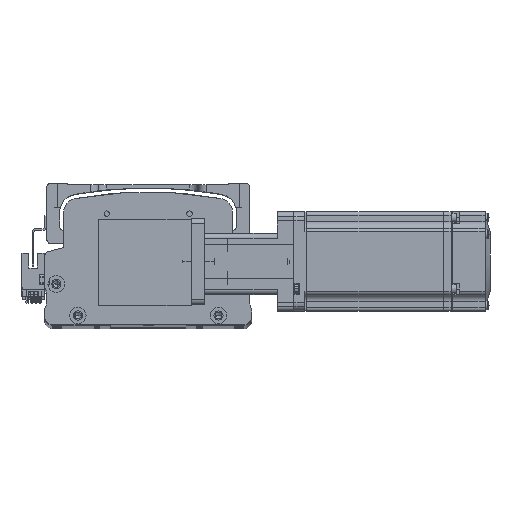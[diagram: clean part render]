
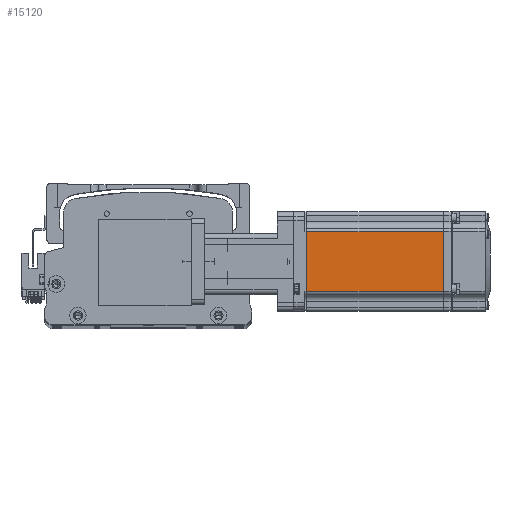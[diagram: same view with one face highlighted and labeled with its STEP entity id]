
A CAD part, top view. The second image highlights one B-rep face of the part: STEP entity #15120.
In plain terms, the highlighted planar face has unit normal (0, 0, 1) as drawn and (0, -1, 0) by its records, which use the part's own axes.
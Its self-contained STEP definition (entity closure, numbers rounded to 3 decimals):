
#254 = DIRECTION ( 'NONE',  ( 0., 0., -1. ) ) ;
#755 = EDGE_CURVE ( 'NONE', #61652, #49777, #21431, .T. ) ;
#1478 = CARTESIAN_POINT ( 'NONE',  ( -7.75, -30., 18. ) ) ;
#2008 = ORIENTED_EDGE ( 'NONE', *, *, #4641, .F. ) ;
#4641 = EDGE_CURVE ( 'NONE', #56805, #61652, #28332, .T. ) ;
#4927 = PLANE ( 'NONE',  #53076 ) ;
#5736 = VECTOR ( 'NONE', #22563, 1000. ) ;
#6845 = ORIENTED_EDGE ( 'NONE', *, *, #20313, .T. ) ;
#9947 = VERTEX_POINT ( 'NONE', #42802 ) ;
#15120 = ADVANCED_FACE ( 'NONE', ( #36832 ), #4927, .T. ) ;
#17918 = DIRECTION ( 'NONE',  ( -1., 0., 0. ) ) ;
#19633 = ORIENTED_EDGE ( 'NONE', *, *, #48475, .T. ) ;
#20313 = EDGE_CURVE ( 'NONE', #9947, #49777, #43016, .T. ) ;
#21431 = LINE ( 'NONE', #51968, #45764 ) ;
#22563 = DIRECTION ( 'NONE',  ( 0., 0., -1. ) ) ;
#26067 = CARTESIAN_POINT ( 'NONE',  ( -7.75, -30., 0. ) ) ;
#28164 = CARTESIAN_POINT ( 'NONE',  ( -90.45, -30., -18. ) ) ;
#28332 = LINE ( 'NONE', #26067, #54169 ) ;
#28632 = EDGE_LOOP ( 'NONE', ( #2008, #19633, #6845, #55835 ) ) ;
#29373 = DIRECTION ( 'NONE',  ( 0., -1., 0. ) ) ;
#30458 = DIRECTION ( 'NONE',  ( -1., 0., 0. ) ) ;
#35365 = CARTESIAN_POINT ( 'NONE',  ( -7.75, -30., -18. ) ) ;
#36832 = FACE_OUTER_BOUND ( 'NONE', #28632, .T. ) ;
#40111 = VECTOR ( 'NONE', #30458, 1000. ) ;
#42802 = CARTESIAN_POINT ( 'NONE',  ( -90.45, -30., 18. ) ) ;
#43016 = LINE ( 'NONE', #51923, #5736 ) ;
#45764 = VECTOR ( 'NONE', #17918, 1000. ) ;
#48475 = EDGE_CURVE ( 'NONE', #56805, #9947, #52964, .T. ) ;
#49777 = VERTEX_POINT ( 'NONE', #28164 ) ;
#51923 = CARTESIAN_POINT ( 'NONE',  ( -90.45, -30., 0. ) ) ;
#51968 = CARTESIAN_POINT ( 'NONE',  ( -6.5, -30., -18. ) ) ;
#52964 = LINE ( 'NONE', #54683, #40111 ) ;
#53076 = AXIS2_PLACEMENT_3D ( 'NONE', #58476, #29373, #254 ) ;
#54169 = VECTOR ( 'NONE', #60022, 1000. ) ;
#54683 = CARTESIAN_POINT ( 'NONE',  ( -6.5, -30., 18. ) ) ;
#55835 = ORIENTED_EDGE ( 'NONE', *, *, #755, .F. ) ;
#56805 = VERTEX_POINT ( 'NONE', #1478 ) ;
#58476 = CARTESIAN_POINT ( 'NONE',  ( -6.5, -30., -25. ) ) ;
#60022 = DIRECTION ( 'NONE',  ( 0., 0., -1. ) ) ;
#61652 = VERTEX_POINT ( 'NONE', #35365 ) ;
